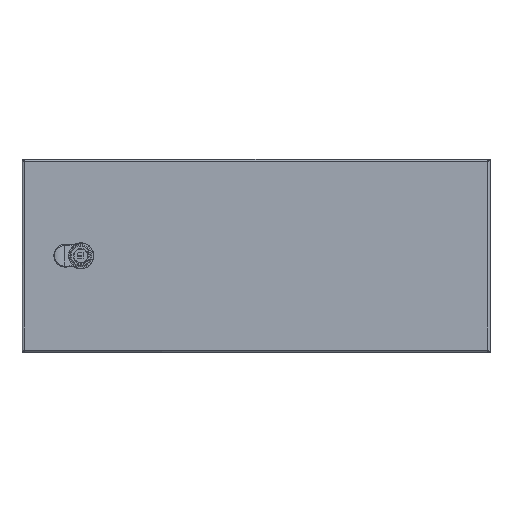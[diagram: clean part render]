
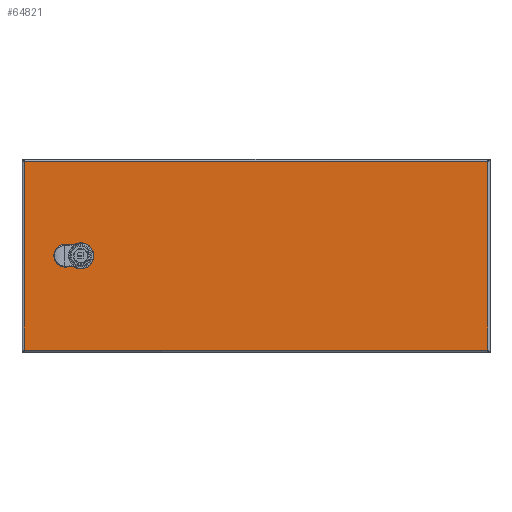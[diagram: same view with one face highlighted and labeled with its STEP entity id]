
A CAD part, top view. The second image highlights one B-rep face of the part: STEP entity #64821.
In plain terms, the highlighted planar face has unit normal (0, 0, 1).
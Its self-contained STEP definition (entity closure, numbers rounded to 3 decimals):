
#58731=CARTESIAN_POINT(' ',(308.602,110.657,253.699));
#58732=VERTEX_POINT(' ',#58731);
#59396=CARTESIAN_POINT(' ',(308.602,-128.743,253.699));
#59397=VERTEX_POINT(' ',#59396);
#60371=CARTESIAN_POINT(' ',(308.602,110.657,253.699));
#60376=DIRECTION(' ',(0.,-1.,0.));
#60381=VECTOR(' ',#60376,1.);
#60386=LINE('',#60371,#60381);
#60391=EDGE_CURVE(' ',#58732,#59397,#60386,.T.);
#62626=CARTESIAN_POINT(' ',(-279.798,-128.743,253.699));
#62627=VERTEX_POINT(' ',#62626);
#63241=CARTESIAN_POINT(' ',(-279.798,110.657,253.699));
#63242=VERTEX_POINT(' ',#63241);
#64691=DIRECTION(' ',(-0.,-0.,1.));
#64696=CARTESIAN_POINT(' ',(308.602,-128.743,253.699));
#64701=DIRECTION(' ',(0.,1.,0.));
#64706=AXIS2_PLACEMENT_3D(' ',#64696,#64691,#64701);
#64711=PLANE('NONE',#64706);
#64716=CARTESIAN_POINT(' ',(-279.798,-128.743,253.699));
#64721=DIRECTION(' ',(1.,0.,0.));
#64726=VECTOR(' ',#64721,1.);
#64731=LINE('',#64716,#64726);
#64736=EDGE_CURVE(' ',#62627,#59397,#64731,.T.);
#64741=ORIENTED_EDGE(' ',*,*,#64736,.T.);
#64746=ORIENTED_EDGE(' ',*,*,#60391,.F.);
#64751=CARTESIAN_POINT(' ',(308.602,110.657,253.699));
#64756=DIRECTION(' ',(-1.,0.,0.));
#64761=VECTOR(' ',#64756,1.);
#64766=LINE('',#64751,#64761);
#64771=EDGE_CURVE(' ',#58732,#63242,#64766,.T.);
#64776=ORIENTED_EDGE(' ',*,*,#64771,.T.);
#64781=CARTESIAN_POINT(' ',(-279.798,110.657,253.699));
#64786=DIRECTION(' ',(0.,-1.,0.));
#64791=VECTOR(' ',#64786,1.);
#64796=LINE('',#64781,#64791);
#64801=EDGE_CURVE(' ',#63242,#62627,#64796,.T.);
#64806=ORIENTED_EDGE(' ',*,*,#64801,.T.);
#64811=EDGE_LOOP(' ',(#64741,#64746,#64776,#64806));
#64816=FACE_OUTER_BOUND(' ',#64811,.T.);
#64821=ADVANCED_FACE('NONE',(#64816),#64711,.T.);
